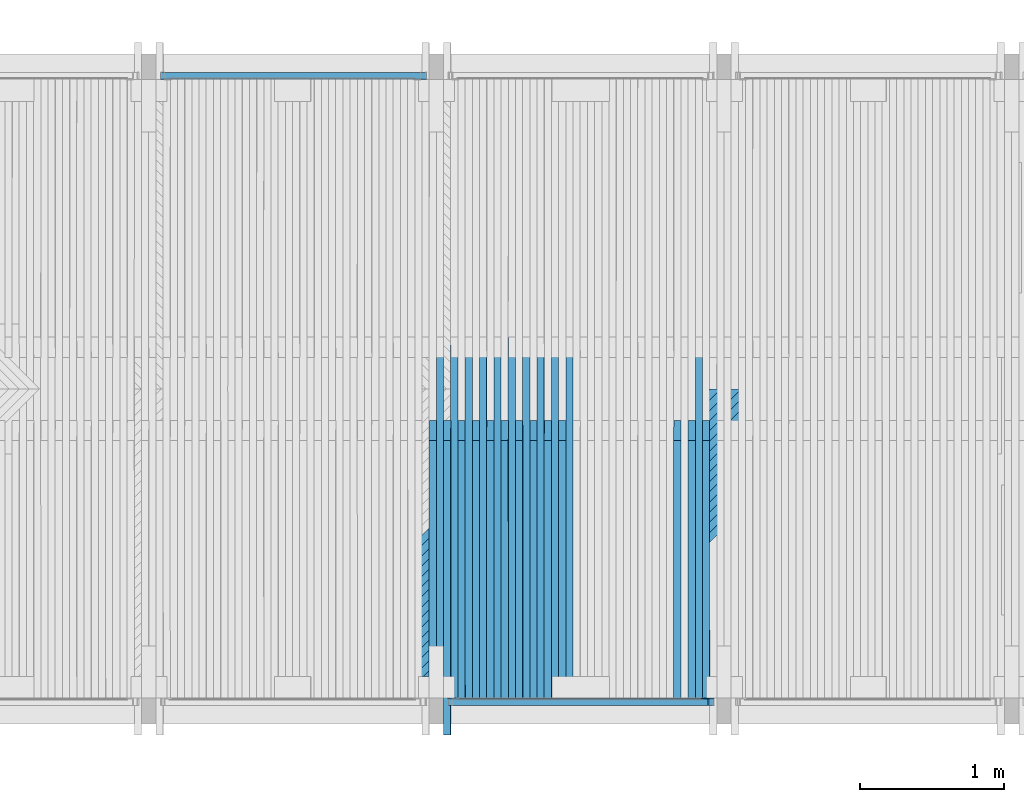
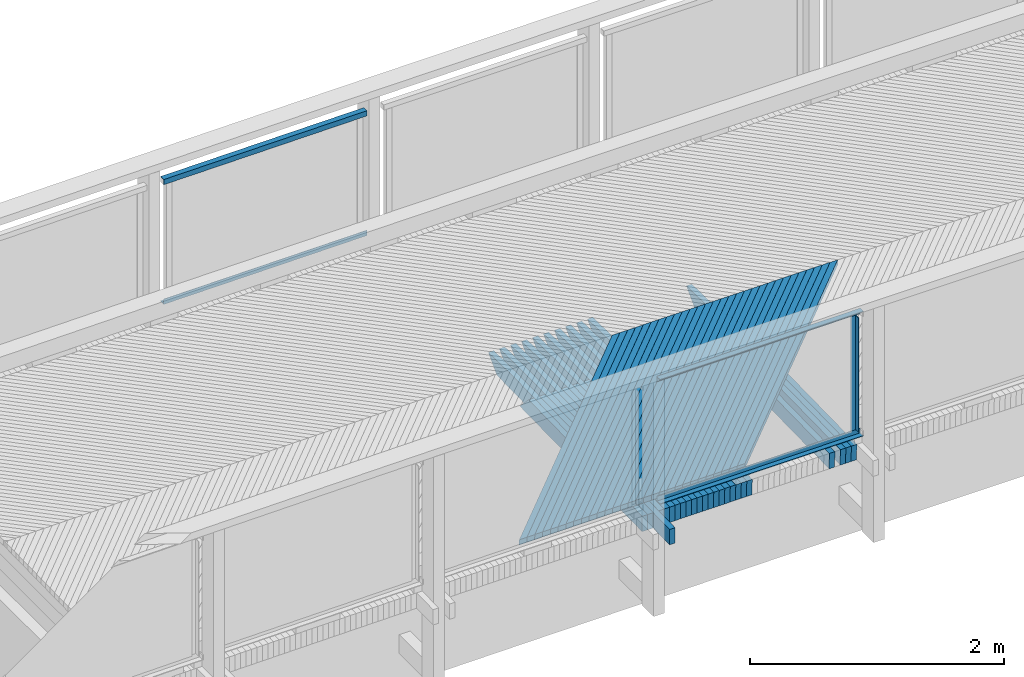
# One storey, part 22 of 65: 58 beams.
"""IFC2X3 building model written with IfcOpenShell, lengths in millimetres."""

from ifc_helpers import new_model, si_unit, frame, origin_with_axes, place, context, subcontext, project, spatial, faceted_brep, material, type_object, element, save


model = new_model("IFC2X3")

# Units and contexts
model_context = context("Model", 3, precision=1e-05, world=origin_with_axes())
body_context = subcontext(model_context, "Body", "Model", "MODEL_VIEW")
ifc_project = project(units=[si_unit("LENGTHUNIT", "METRE", prefix="MILLI"), si_unit("AREAUNIT", "SQUARE_METRE"), si_unit("VOLUMEUNIT", "CUBIC_METRE"), si_unit("MASSUNIT", "GRAM", prefix="KILO"), si_unit("TIMEUNIT", "SECOND"), si_unit("PLANEANGLEUNIT", "RADIAN"), si_unit("SOLIDANGLEUNIT", "STERADIAN"), si_unit("THERMODYNAMICTEMPERATUREUNIT", "DEGREE_CELSIUS"), si_unit("LUMINOUSINTENSITYUNIT", "LUMEN")], contexts=[model_context])

# Site, building, storey
site_placement = place(None, origin_with_axes())
site = spatial("IfcSite", under=ifc_project, at=site_placement, Name="Undefined", CompositionType="ELEMENT")
building_placement = place(site_placement, origin_with_axes())
building = spatial("IfcBuilding", under=site, at=building_placement, Name="Undefined", CompositionType="ELEMENT")
storey_placement = place(building_placement, origin_with_axes())
storey = spatial("IfcBuildingStorey", under=building, at=storey_placement, Name="Undefined", CompositionType="ELEMENT", Elevation=0.0)

# Beams
ifc_material_1 = material(Name="STEEL/S235JR")
beam_type_1 = type_object("IfcBeamType", Name="L50*5", PredefinedType="NOTDEFINED")
for number, where, z_axis, x_axis, name in (
    (1, (2082.78776180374, 24539.9900000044, 3262.26070203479), (0.0, 1.0, 0.0), (0.999965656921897, 0.0, 0.00828763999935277), "BEAM"),
    (2, (3932.20542123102, 24539.9900000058, 4427.58758107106), (0.0, 1.0, 0.0), (-0.999965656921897, 0.0, -0.00828763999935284), "BEAM"),
):
    element("IfcBeam", number, at=place(storey_placement, frame(where, z_axis=z_axis, x_axis=x_axis)), inside=storey, type_object=beam_type_1, material=ifc_material_1, Name=name, ObjectType="L50*5", context=body_context, shape_type="Brep", body=[
        faceted_brep([(0.0, 25.0, -25.0), (0.0, 25.0, 25.0), (1849.06678002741, 25.0, 25.0), (1849.06678002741, 25.0, -25.0), (0.0, 20.0, 25.0), (1849.06678002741, 20.0, 25.0), (0.0, 20.0, -20.0), (1849.06678002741, 20.0, -20.0), (0.0, -25.0, -20.0), (1849.06678002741, -25.0, -20.0), (0.0, -25.0, -25.0), (1849.06678002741, -25.0, -25.0)], [[[0, 1, 2, 3]], [[1, 4, 5, 2]], [[4, 6, 7, 5]], [[6, 8, 9, 7]], [[8, 10, 11, 9]], [[10, 0, 3, 11]], [[5, 7, 9, 11, 3, 2]], [[10, 8, 6, 4, 1, 0]]]),
    ])
beam_1_placement = place(storey_placement, frame((5867.50249484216, 20190.01, 4412.55853572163), z_axis=(0.0, -1.0, 0.0), x_axis=(0.0, 0.0, -1.0)))
element("IfcBeam", 3, at=beam_1_placement, inside=storey, type_object=beam_type_1, material=ifc_material_1, Name="BEAM", ObjectType="L50*5", context=body_context, shape_type="Brep", body=[
    faceted_brep([(0.0, 25.0, -25.0), (0.0, 25.0, 25.0), (1099.9997751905, 25.0, 25.0), (1099.9997751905, 25.0, -25.0), (0.0, 20.0, 25.0), (1099.9997751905, 20.0, 25.0), (0.0, 20.0, -20.0), (1099.9997751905, 20.0, -20.0), (0.0, -25.0, -20.0), (1099.9997751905, -25.0, -20.0), (0.0, -25.0, -25.0), (1099.9997751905, -25.0, -25.0)], [[[0, 1, 2, 3]], [[1, 4, 5, 2]], [[4, 6, 7, 5]], [[6, 8, 9, 7]], [[8, 10, 11, 9]], [[10, 0, 3, 11]], [[5, 7, 9, 11, 3, 2]], [[10, 8, 6, 4, 1, 0]]]),
])
for number, where, z_axis, x_axis, name in (
    (4, (5931.87355674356, 20190.0100000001, 3287.75429686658), (0.0, -1.0, 0.0), (-0.999987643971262, 0.0, -0.00497110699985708), "BEAM"),
    (5, (4083.12758547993, 20190.0100000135, 4428.56401363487), (0.0, -1.0, 0.0), (0.999987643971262, 0.0, 0.00497110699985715), "BEAM"),
):
    element("IfcBeam", number, at=place(storey_placement, frame(where, z_axis=z_axis, x_axis=x_axis)), inside=storey, type_object=beam_type_1, material=ifc_material_1, Name=name, ObjectType="L50*5", context=body_context, shape_type="Brep", body=[
        faceted_brep([(0.0, 25.0, -25.0), (0.0, 25.0, 25.0), (1849.01737315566, 25.0, 25.0), (1849.01737315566, 25.0, -25.0), (0.0, 20.0, 25.0), (1849.01737315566, 20.0, 25.0), (0.0, 20.0, -20.0), (1849.01737315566, 20.0, -20.0), (0.0, -25.0, -20.0), (1849.01737315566, -25.0, -20.0), (0.0, -25.0, -25.0), (1849.01737315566, -25.0, -25.0)], [[[0, 1, 2, 3]], [[1, 4, 5, 2]], [[4, 6, 7, 5]], [[6, 8, 9, 7]], [[8, 10, 11, 9]], [[10, 0, 3, 11]], [[5, 7, 9, 11, 3, 2]], [[10, 8, 6, 4, 1, 0]]]),
    ])
ifc_material_2 = material(Name="TIMBER/Timber_Undefined")
beam_type_2 = type_object("IfcBeamType", Name="50*50", PredefinedType="NOTDEFINED")
for number, where, z_axis, x_axis, name in (
    (6, (6933.49514567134, 22364.5001003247, 3235.17752037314), (0.707136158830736, -0.706981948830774, -0.0116179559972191), (-0.707068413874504, -0.706948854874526, -0.016660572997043), "BEAM"),
    (7, (6862.77103065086, 22364.5001003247, 3235.04809435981), (0.707137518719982, -0.706981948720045, -0.0115348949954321), (-0.707066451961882, -0.706948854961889, -0.0167436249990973), "BEAM"),
    (8, (6792.04693132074, 22364.5001003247, 3234.91036104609), (0.707138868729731, -0.706981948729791, -0.0114518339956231), (-0.707064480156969, -0.706948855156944, -0.0168266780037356), "BEAM"),
    (9, (6721.32284865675, 22364.5001003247, 3234.76432043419), (0.707140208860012, -0.706981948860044, -0.0113687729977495), (-0.707062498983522, -0.706948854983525, -0.0169097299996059), "BEAM"),
    (10, (6650.59878363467, 22364.5001003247, 3234.60997252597), (0.707141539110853, -0.706981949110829, -0.011285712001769), (-0.707060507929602, -0.706948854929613, -0.0169927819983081), "BEAM"),
    (11, (6579.8747372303, 22364.5001003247, 3234.44731732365), (0.707142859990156, -0.706981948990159, -0.0112026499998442), (-0.707058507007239, -0.706948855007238, -0.0170758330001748), "BEAM"),
    (12, (6509.1507104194, 22364.5001003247, 3234.27635482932), (0.707144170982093, -0.706981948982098, -0.0111195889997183), (-0.707056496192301, -0.706948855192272, -0.0171588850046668), "BEAM"),
    (13, (6438.42670417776, 22364.5001003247, 3234.09708504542), (0.707145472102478, -0.706981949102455, -0.0110365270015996), (-0.707054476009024, -0.706948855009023, -0.01724193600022), "BEAM"),
    (14, (6367.70271948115, 22364.5001003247, 3233.9095079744), (0.707146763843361, -0.706981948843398, -0.0109534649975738), (-0.707052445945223, -0.706948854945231, -0.0173249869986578), "BEAM"),
    (15, (6296.97875730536, 22364.5001003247, 3233.71362361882), (0.707148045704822, -0.706981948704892, -0.0108704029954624), (-0.707050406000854, -0.706948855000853, -0.0174080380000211), "BEAM"),
    (16, (6226.25481862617, 22364.5001003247, 3233.5094319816), (0.70714931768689, -0.706981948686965, -0.0107873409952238), (-0.707048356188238, -0.706948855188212, -0.0174910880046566), "BEAM"),
    (17, (6155.53090441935, 22364.5001003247, 3233.29693306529), (0.707150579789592, -0.706981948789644, -0.0107042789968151), (-0.707046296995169, -0.706948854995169, -0.01757413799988), "BEAM"),
    (18, (6084.80701566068, 22364.5001003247, 3233.07612687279), (0.707151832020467, -0.706981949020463, -0.0106212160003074), (-0.70704422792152, -0.706948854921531, -0.01765718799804), "BEAM"),
    (19, (6014.08315332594, 22364.5001003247, 3232.84701340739), (0.707153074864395, -0.706981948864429, -0.010538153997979), (-0.707042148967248, -0.706948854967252, -0.0177402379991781), "BEAM"),
    (20, (5943.35931839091, 22364.5001003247, 3232.6095926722), (0.707154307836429, -0.70698194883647, -0.0104550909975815), (-0.707040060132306, -0.706948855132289, -0.0178232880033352), "BEAM"),
    (21, (5872.63551183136, 22364.5001003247, 3232.36386467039), (0.707155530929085, -0.706981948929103, -0.0103720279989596), (-0.707037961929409, -0.706948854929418, -0.0179063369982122), "BEAM"),
    (22, (5801.91173462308, 22364.5001003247, 3232.10982940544), (0.707156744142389, -0.706981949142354, -0.0102889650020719), (-0.707035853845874, -0.706948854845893, -0.0179893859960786), "BEAM"),
    (23, (5731.18798774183, 22364.5001003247, 3231.84748688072), (0.707157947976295, -0.706981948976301, -0.010205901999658), (-0.707033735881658, -0.706948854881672, -0.0180724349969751), "BEAM"),
    (24, (5660.46427216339, 22364.5001003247, 3231.57683709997), (0.707159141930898, -0.706981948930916, -0.0101228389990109), (-0.707031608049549, -0.706948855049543, -0.0181554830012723), "BEAM"),
    (25, (5589.74058886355, 22364.5001003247, 3231.29788006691), (0.707160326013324, -0.706981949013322, -0.0100397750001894), (-0.707029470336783, -0.706948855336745, -0.0182385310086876), "BEAM"),
    (26, (5519.01693881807, 22364.5001003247, 3231.01061578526), (0.707161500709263, -0.706981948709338, -0.00995671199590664), (-0.707027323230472, -0.706948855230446, -0.0183215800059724), "BEAM"),
    (27, (5448.29332300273, 22364.5001003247, 3230.71504425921), (0.707162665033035, -0.706981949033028, -0.00987364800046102), (-0.707025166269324, -0.706948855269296, -0.0184046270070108), "BEAM"),
    (28, (5377.5697423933, 22364.5001003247, 3230.41116549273), (0.707163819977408, -0.706981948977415, -0.00979058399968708), (-0.70702299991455, -0.706948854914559, -0.0184876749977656), "BEAM"),
    (29, (5306.84619796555, 22364.5001003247, 3230.09897948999), (0.707164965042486, -0.706981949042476, -0.00970752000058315), (-0.707020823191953, -0.706948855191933, -0.0185707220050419), "BEAM"),
    (30, (5236.12269069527, 22364.5001003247, 3229.77848625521), (0.707166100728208, -0.70698194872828, -0.00962445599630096), (-0.707018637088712, -0.706948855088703, -0.0186537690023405), "BEAM"),
    (31, (5165.39922155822, 22364.5001003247, 3229.44968579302), (0.707167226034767, -0.706981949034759, -0.00954139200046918), (-0.707016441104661, -0.706948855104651, -0.0187368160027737), "BEAM"),
    (32, (5094.67579153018, 22364.5001003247, 3229.11257810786), (0.707168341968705, -0.706981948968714, -0.00945832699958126), (-0.70701423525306, -0.706948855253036, -0.0188198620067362), "BEAM"),
    (33, (5023.95240158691, 22364.5001003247, 3228.76716320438), (0.707169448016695, -0.706981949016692, -0.00937526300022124), (-0.70701202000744, -0.706948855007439, -0.0189029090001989), "BEAM"),
    (34, (4953.22905270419, 22364.5001003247, 3228.41344108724), (0.707170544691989, -0.706981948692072, -0.00929219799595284), (-0.70700979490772, -0.706948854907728, -0.018985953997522), "BEAM"),
):
    element("IfcBeam", number, at=place(storey_placement, frame(where, z_axis=z_axis, x_axis=x_axis)), inside=storey, type_object=beam_type_2, material=ifc_material_2, Name=name, ObjectType="50*50", context=body_context, shape_type="Brep", body=[
        faceted_brep([(24.8942457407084, 25.0000000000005, -25.0000000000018), (-25.0086637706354, 24.9999999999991, 25.0), (2804.3406783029, 25.0, 25.0000000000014), (2854.34301907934, 24.9999999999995, -25.0), (-26.4222658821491, -25.0000000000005, 25.0), (2802.92643296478, -25.0, 25.0000000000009), (23.4806436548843, -24.9999999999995, -25.0000000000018), (2852.92877373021, -25.0000000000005, -24.9999999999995)], [[[0, 1, 2, 3]], [[1, 4, 5, 2]], [[4, 6, 7, 5]], [[6, 0, 3, 7]], [[5, 7, 3, 2]], [[6, 4, 1, 0]]]),
    ])
beam_type_3 = type_object("IfcBeamType", Name="150*50", PredefinedType="NOTDEFINED")
for number, where, z_axis, x_axis, name in (
    (35, (5875.95475998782, 20216.5046076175, 3089.40059139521), (-0.00361017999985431, -0.0199960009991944, 0.999793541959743), (-7.22040000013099e-05, 0.999800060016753, 0.019995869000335), "BEAM"),
    (36, (5775.93537890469, 20216.5046076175, 3089.0393605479), (-0.00377630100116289, -0.0199960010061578, 0.999792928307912), (-7.55270000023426e-05, 0.999800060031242, 0.0199958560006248), "BEAM"),
):
    element("IfcBeam", number, at=place(storey_placement, frame(where, z_axis=z_axis, x_axis=x_axis)), inside=storey, type_object=beam_type_3, material=ifc_material_2, Name=name, ObjectType="150*50", context=body_context, shape_type="Brep", body=[
        faceted_brep([(-1.6778358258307e-07, -24.9999999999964, -74.9999999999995), (1.67790858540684e-07, -24.9999999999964, 75.0000000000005), (1.67790858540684e-07, 25.0000000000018, 74.9999999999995), (-1.6778358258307e-07, 25.0000000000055, -75.0), (1928.42646353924, -25.0, -75.0000000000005), (1789.96936433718, -25.0000000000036, 74.9999999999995), (1789.96936408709, 24.9999999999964, 75.0), (1928.42646328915, 24.9999999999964, -75.0)], [[[0, 1, 2, 3]], [[1, 0, 4, 5]], [[2, 1, 5, 6]], [[3, 2, 6, 7]], [[0, 3, 7, 4]], [[7, 6, 5, 4]]]),
    ])
beam_2_placement = place(storey_placement, frame((5825.95508575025, 20216.5046076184, 3089.21997974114), z_axis=(-0.00361017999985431, -0.0199960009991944, 0.999793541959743), x_axis=(-7.22040000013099e-05, 0.999800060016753, 0.019995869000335)))
element("IfcBeam", 37, at=beam_2_placement, inside=storey, type_object=beam_type_3, material=ifc_material_2, Name="BEAM", ObjectType="150*50", context=body_context, shape_type="Brep", body=[
    faceted_brep([(-1.6778358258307e-07, -24.9999999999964, -74.9999999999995), (1.67790858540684e-07, -24.9999999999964, 75.0000000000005), (1.67790858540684e-07, 25.0000000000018, 74.9999999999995), (-1.6778358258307e-07, 25.0000000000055, -75.0), (2375.00494422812, 25.0000000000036, -75.0), (2375.00494447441, -24.9999999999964, -74.9999999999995), (2510.59248714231, -24.9999999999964, 60.5875430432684), (2150.42514405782, -24.9999999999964, 75.0000000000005), (2150.42515052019, 25.0000000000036, 74.9999999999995), (2510.59248715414, 25.0000000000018, 60.5875433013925)], [[[0, 1, 2, 3]], [[0, 3, 4, 5]], [[1, 0, 5, 6, 7]], [[2, 1, 7, 8]], [[4, 3, 2, 8, 9]], [[5, 4, 9, 6]], [[6, 9, 8, 7]]]),
])
for number, where, z_axis, x_axis, name in (
    (38, (5675.91605922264, 20216.5046076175, 3088.66151095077), (-0.00394242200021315, -0.0199960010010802, 0.999792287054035), (-7.88490000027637e-05, 0.999800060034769, 0.0199958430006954), "BEAM"),
    (39, (4875.76404356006, 20216.5046076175, 3085.04044053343), (-0.00527138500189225, -0.0199960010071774, 0.999786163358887), (-0.000105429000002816, 0.999800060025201, 0.019995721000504), "BEAM"),
):
    element("IfcBeam", number, at=place(storey_placement, frame(where, z_axis=z_axis, x_axis=x_axis)), inside=storey, type_object=beam_type_3, material=ifc_material_2, Name=name, ObjectType="150*50", context=body_context, shape_type="Brep", body=[
        faceted_brep([(-1.6778358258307e-07, -24.9999999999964, -74.9999999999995), (1.67790858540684e-07, -24.9999999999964, 75.0000000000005), (1.67790858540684e-07, 25.0000000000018, 74.9999999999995), (-1.6778358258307e-07, 25.0000000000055, -75.0), (1928.42646353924, -25.0, -75.0000000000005), (1789.96936433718, -25.0000000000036, 74.9999999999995), (1789.96936408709, 24.9999999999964, 75.0), (1928.42646328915, 24.9999999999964, -75.0)], [[[0, 1, 2, 3]], [[1, 0, 4, 5]], [[2, 1, 5, 6]], [[3, 2, 6, 7]], [[0, 3, 7, 4]], [[7, 6, 5, 4]]]),
    ])
beam_3_placement = place(storey_placement, frame((4925.78342438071, 20216.5046076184, 3085.29585887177), z_axis=(-0.00510526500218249, -0.0199960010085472, 0.999787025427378), x_axis=(-0.000102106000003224, 0.999800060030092, 0.0199957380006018)))
element("IfcBeam", 40, at=beam_3_placement, inside=storey, type_object=beam_type_3, material=ifc_material_2, Name="BEAM", ObjectType="150*50", context=body_context, shape_type="Brep", body=[
    faceted_brep([(-1.6778358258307e-07, -24.9999999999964, -74.9999999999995), (1.67790858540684e-07, -24.9999999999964, 75.0000000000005), (1.67790858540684e-07, 25.0000000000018, 74.9999999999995), (-1.6778358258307e-07, 25.0000000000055, -75.0), (2375.00494422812, 25.0000000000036, -75.0), (2375.00494447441, -24.9999999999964, -74.9999999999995), (2510.59248714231, -24.9999999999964, 60.5875430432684), (2150.42514405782, -24.9999999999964, 75.0000000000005), (2150.42515052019, 25.0000000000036, 74.9999999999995), (2510.59248715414, 25.0000000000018, 60.5875433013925)], [[[0, 1, 2, 3]], [[0, 3, 4, 5]], [[1, 0, 5, 6, 7]], [[2, 1, 7, 8]], [[4, 3, 2, 8, 9]], [[5, 4, 9, 6]], [[6, 9, 8, 7]]]),
])
beam_4_placement = place(storey_placement, frame((4775.74540074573, 20216.5046076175, 3084.51302271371), z_axis=(-0.00543750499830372, -0.0199960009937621, 0.999785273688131), x_axis=(-0.000108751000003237, 0.99980006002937, 0.0199957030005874)))
element("IfcBeam", 41, at=beam_4_placement, inside=storey, type_object=beam_type_3, material=ifc_material_2, Name="BEAM", ObjectType="150*50", context=body_context, shape_type="Brep", body=[
    faceted_brep([(-1.6778358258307e-07, -24.9999999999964, -74.9999999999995), (1.67790858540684e-07, -24.9999999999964, 75.0000000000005), (1.67790858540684e-07, 25.0000000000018, 74.9999999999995), (-1.6778358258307e-07, 25.0000000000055, -75.0), (1928.42646353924, -25.0, -75.0000000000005), (1789.96936433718, -25.0000000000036, 74.9999999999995), (1789.96936408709, 24.9999999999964, 75.0), (1928.42646328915, 24.9999999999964, -75.0)], [[[0, 1, 2, 3]], [[1, 0, 4, 5]], [[2, 1, 5, 6]], [[3, 2, 6, 7]], [[0, 3, 7, 4]], [[7, 6, 5, 4]]]),
])
beam_5_placement = place(storey_placement, frame((4825.7647384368, 20216.5046076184, 3084.77675203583), z_axis=(-0.00527138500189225, -0.0199960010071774, 0.999786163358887), x_axis=(-0.000105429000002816, 0.999800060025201, 0.019995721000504)))
element("IfcBeam", 42, at=beam_5_placement, inside=storey, type_object=beam_type_3, material=ifc_material_2, Name="BEAM", ObjectType="150*50", context=body_context, shape_type="Brep", body=[
    faceted_brep([(-1.6778358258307e-07, -24.9999999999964, -74.9999999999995), (1.67790858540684e-07, -24.9999999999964, 75.0000000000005), (1.67790858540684e-07, 25.0000000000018, 74.9999999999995), (-1.6778358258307e-07, 25.0000000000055, -75.0), (2375.00494422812, 25.0000000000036, -75.0), (2375.00494447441, -24.9999999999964, -74.9999999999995), (2510.59248714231, -24.9999999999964, 60.5875430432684), (2150.42514405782, -24.9999999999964, 75.0000000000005), (2150.42515052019, 25.0000000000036, 74.9999999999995), (2510.59248715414, 25.0000000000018, 60.5875433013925)], [[[0, 1, 2, 3]], [[0, 3, 4, 5]], [[1, 0, 5, 6, 7]], [[2, 1, 7, 8]], [[4, 3, 2, 8, 9]], [[5, 4, 9, 6]], [[6, 9, 8, 7]]]),
])
beam_6_placement = place(storey_placement, frame((4675.72684694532, 20216.5046076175, 3083.96898626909), z_axis=(-0.0056036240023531, -0.0199960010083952, 0.999784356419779), x_axis=(-0.000112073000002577, 0.999800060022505, 0.0199956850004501)))
element("IfcBeam", 43, at=beam_6_placement, inside=storey, type_object=beam_type_3, material=ifc_material_2, Name="BEAM", ObjectType="150*50", context=body_context, shape_type="Brep", body=[
    faceted_brep([(-1.6778358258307e-07, -24.9999999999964, -74.9999999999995), (1.67790858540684e-07, -24.9999999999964, 75.0000000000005), (1.67790858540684e-07, 25.0000000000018, 74.9999999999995), (-1.6778358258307e-07, 25.0000000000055, -75.0), (1928.42646353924, -25.0, -75.0000000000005), (1789.96936433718, -25.0000000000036, 74.9999999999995), (1789.96936408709, 24.9999999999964, 75.0), (1928.42646328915, 24.9999999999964, -75.0)], [[[0, 1, 2, 3]], [[1, 0, 4, 5]], [[2, 1, 5, 6]], [[3, 2, 6, 7]], [[0, 3, 7, 4]], [[7, 6, 5, 4]]]),
])
beam_7_placement = place(storey_placement, frame((4725.7461401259, 20216.5046076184, 3084.24102656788), z_axis=(-0.00543750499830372, -0.0199960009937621, 0.999785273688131), x_axis=(-0.000108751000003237, 0.99980006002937, 0.0199957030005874)))
element("IfcBeam", 44, at=beam_7_placement, inside=storey, type_object=beam_type_3, material=ifc_material_2, Name="BEAM", ObjectType="150*50", context=body_context, shape_type="Brep", body=[
    faceted_brep([(-1.6778358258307e-07, -24.9999999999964, -74.9999999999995), (1.67790858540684e-07, -24.9999999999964, 75.0000000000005), (1.67790858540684e-07, 25.0000000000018, 74.9999999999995), (-1.6778358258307e-07, 25.0000000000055, -75.0), (2375.00494422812, 25.0000000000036, -75.0), (2375.00494447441, -24.9999999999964, -74.9999999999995), (2510.59248714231, -24.9999999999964, 60.5875430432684), (2150.42514405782, -24.9999999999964, 75.0000000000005), (2150.42515052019, 25.0000000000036, 74.9999999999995), (2510.59248715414, 25.0000000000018, 60.5875433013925)], [[[0, 1, 2, 3]], [[0, 3, 4, 5]], [[1, 0, 5, 6, 7]], [[2, 1, 7, 8]], [[4, 3, 2, 8, 9]], [[5, 4, 9, 6]], [[6, 9, 8, 7]]]),
])
beam_8_placement = place(storey_placement, frame((4575.70838492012, 20216.5046076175, 3083.40833121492), z_axis=(-0.00576974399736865, -0.0199960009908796, 0.999783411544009), x_axis=(-0.00011539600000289, 0.999800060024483, 0.0199956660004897)))
element("IfcBeam", 45, at=beam_8_placement, inside=storey, type_object=beam_type_3, material=ifc_material_2, Name="BEAM", ObjectType="150*50", context=body_context, shape_type="Brep", body=[
    faceted_brep([(-1.6778358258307e-07, -24.9999999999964, -74.9999999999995), (1.67790858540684e-07, -24.9999999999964, 75.0000000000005), (1.67790858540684e-07, 25.0000000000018, 74.9999999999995), (-1.6778358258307e-07, 25.0000000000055, -75.0), (1928.42646353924, -25.0, -75.0000000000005), (1789.96936433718, -25.0000000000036, 74.9999999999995), (1789.96936408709, 24.9999999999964, 75.0), (1928.42646328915, 24.9999999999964, -75.0)], [[[0, 1, 2, 3]], [[1, 0, 4, 5]], [[2, 1, 5, 6]], [[3, 2, 6, 7]], [[0, 3, 7, 4]], [[7, 6, 5, 4]]]),
])
beam_9_placement = place(storey_placement, frame((4625.72763220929, 20216.5046076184, 3083.68868248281), z_axis=(-0.0056036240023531, -0.0199960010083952, 0.999784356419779), x_axis=(-0.000112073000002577, 0.999800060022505, 0.0199956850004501)))
element("IfcBeam", 46, at=beam_9_placement, inside=storey, type_object=beam_type_3, material=ifc_material_2, Name="BEAM", ObjectType="150*50", context=body_context, shape_type="Brep", body=[
    faceted_brep([(-1.6778358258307e-07, -24.9999999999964, -74.9999999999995), (1.67790858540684e-07, -24.9999999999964, 75.0000000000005), (1.67790858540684e-07, 25.0000000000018, 74.9999999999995), (-1.6778358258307e-07, 25.0000000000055, -75.0), (2375.00494422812, 25.0000000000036, -75.0), (2375.00494447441, -24.9999999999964, -74.9999999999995), (2510.59248714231, -24.9999999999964, 60.5875430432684), (2150.42514405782, -24.9999999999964, 75.0000000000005), (2150.42515052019, 25.0000000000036, 74.9999999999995), (2510.59248715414, 25.0000000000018, 60.5875433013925)], [[[0, 1, 2, 3]], [[0, 3, 4, 5]], [[1, 0, 5, 6, 7]], [[2, 1, 7, 8]], [[4, 3, 2, 8, 9]], [[5, 4, 9, 6]], [[6, 9, 8, 7]]]),
])
beam_10_placement = place(storey_placement, frame((4475.69001743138, 20216.5046076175, 3082.83105756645), z_axis=(-0.00593586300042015, -0.0199960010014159, 0.999782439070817), x_axis=(-0.00011871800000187, 0.999800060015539, 0.0199956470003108)))
element("IfcBeam", 47, at=beam_10_placement, inside=storey, type_object=beam_type_3, material=ifc_material_2, Name="BEAM", ObjectType="150*50", context=body_context, shape_type="Brep", body=[
    faceted_brep([(-1.6778358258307e-07, -24.9999999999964, -74.9999999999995), (1.67790858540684e-07, -24.9999999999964, 75.0000000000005), (1.67790858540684e-07, 25.0000000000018, 74.9999999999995), (-1.6778358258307e-07, 25.0000000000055, -75.0), (1928.42646353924, -25.0, -75.0000000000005), (1789.96936433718, -25.0000000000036, 74.9999999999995), (1789.96936408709, 24.9999999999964, 75.0), (1928.42646328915, 24.9999999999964, -75.0)], [[[0, 1, 2, 3]], [[1, 0, 4, 5]], [[2, 1, 5, 6]], [[3, 2, 6, 7]], [[0, 3, 7, 4]], [[7, 6, 5, 4]]]),
])
beam_11_placement = place(storey_placement, frame((4525.70921744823, 20216.5046076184, 3083.11971979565), z_axis=(-0.00576974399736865, -0.0199960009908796, 0.999783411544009), x_axis=(-0.00011539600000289, 0.999800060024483, 0.0199956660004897)))
element("IfcBeam", 48, at=beam_11_placement, inside=storey, type_object=beam_type_3, material=ifc_material_2, Name="BEAM", ObjectType="150*50", context=body_context, shape_type="Brep", body=[
    faceted_brep([(-1.6778358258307e-07, -24.9999999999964, -74.9999999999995), (1.67790858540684e-07, -24.9999999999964, 75.0000000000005), (1.67790858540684e-07, 25.0000000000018, 74.9999999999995), (-1.6778358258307e-07, 25.0000000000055, -75.0), (2375.00494422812, 25.0000000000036, -75.0), (2375.00494447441, -24.9999999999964, -74.9999999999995), (2510.59248714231, -24.9999999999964, 60.5875430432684), (2150.42514405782, -24.9999999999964, 75.0000000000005), (2150.42515052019, 25.0000000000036, 74.9999999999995), (2510.59248715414, 25.0000000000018, 60.5875433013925)], [[[0, 1, 2, 3]], [[0, 3, 4, 5]], [[1, 0, 5, 6, 7]], [[2, 1, 7, 8]], [[4, 3, 2, 8, 9]], [[5, 4, 9, 6]], [[6, 9, 8, 7]]]),
])
beam_12_placement = place(storey_placement, frame((4375.67174724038, 20216.5046076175, 3082.23716533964), z_axis=(-0.00610198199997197, -0.0199960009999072, 0.999781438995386), x_axis=(-0.000122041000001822, 0.999800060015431, 0.0199956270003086)))
element("IfcBeam", 49, at=beam_12_placement, inside=storey, type_object=beam_type_3, material=ifc_material_2, Name="BEAM", ObjectType="150*50", context=body_context, shape_type="Brep", body=[
    faceted_brep([(-1.6778358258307e-07, -24.9999999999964, -74.9999999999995), (1.67790858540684e-07, -24.9999999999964, 75.0000000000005), (1.67790858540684e-07, 25.0000000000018, 74.9999999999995), (-1.6778358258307e-07, 25.0000000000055, -75.0), (1928.42646353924, -25.0, -75.0000000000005), (1789.96936433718, -25.0000000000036, 74.9999999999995), (1789.96936408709, 24.9999999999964, 75.0), (1928.42646328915, 24.9999999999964, -75.0)], [[[0, 1, 2, 3]], [[1, 0, 4, 5]], [[2, 1, 5, 6]], [[3, 2, 6, 7]], [[0, 3, 7, 4]], [[7, 6, 5, 4]]]),
])
beam_13_placement = place(storey_placement, frame((4425.690898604, 20216.5046076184, 3082.53413852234), z_axis=(-0.00593586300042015, -0.0199960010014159, 0.999782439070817), x_axis=(-0.00011871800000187, 0.999800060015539, 0.0199956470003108)))
element("IfcBeam", 50, at=beam_13_placement, inside=storey, type_object=beam_type_3, material=ifc_material_2, Name="BEAM", ObjectType="150*50", context=body_context, shape_type="Brep", body=[
    faceted_brep([(-1.6778358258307e-07, -24.9999999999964, -74.9999999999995), (1.67790858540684e-07, -24.9999999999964, 75.0000000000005), (1.67790858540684e-07, 25.0000000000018, 74.9999999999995), (-1.6778358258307e-07, 25.0000000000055, -75.0), (2375.00494422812, 25.0000000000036, -75.0), (2375.00494447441, -24.9999999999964, -74.9999999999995), (2510.59248714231, -24.9999999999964, 60.5875430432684), (2150.42514405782, -24.9999999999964, 75.0000000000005), (2150.42515052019, 25.0000000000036, 74.9999999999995), (2510.59248715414, 25.0000000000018, 60.5875433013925)], [[[0, 1, 2, 3]], [[0, 3, 4, 5]], [[1, 0, 5, 6, 7]], [[2, 1, 7, 8]], [[4, 3, 2, 8, 9]], [[5, 4, 9, 6]], [[6, 9, 8, 7]]]),
])
beam_14_placement = place(storey_placement, frame((4275.65357710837, 20216.5046076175, 3081.62665455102), z_axis=(-0.00626810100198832, -0.0199960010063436, 0.999780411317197), x_axis=(-0.000125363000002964, 0.999800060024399, 0.0199956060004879)))
element("IfcBeam", 51, at=beam_14_placement, inside=storey, type_object=beam_type_3, material=ifc_material_2, Name="BEAM", ObjectType="150*50", context=body_context, shape_type="Brep", body=[
    faceted_brep([(-1.6778358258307e-07, -24.9999999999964, -74.9999999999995), (1.67790858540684e-07, -24.9999999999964, 75.0000000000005), (1.67790858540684e-07, 25.0000000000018, 74.9999999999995), (-1.6778358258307e-07, 25.0000000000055, -75.0), (1928.42646353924, -25.0, -75.0000000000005), (1789.96936433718, -25.0000000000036, 74.9999999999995), (1789.96936408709, 24.9999999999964, 75.0), (1928.42646328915, 24.9999999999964, -75.0)], [[[0, 1, 2, 3]], [[1, 0, 4, 5]], [[2, 1, 5, 6]], [[3, 2, 6, 7]], [[0, 3, 7, 4]], [[7, 6, 5, 4]]]),
])
beam_15_placement = place(storey_placement, frame((4325.67267843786, 20216.5046076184, 3081.93193867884), z_axis=(-0.00610198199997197, -0.0199960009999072, 0.999781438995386), x_axis=(-0.000122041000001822, 0.999800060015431, 0.0199956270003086)))
element("IfcBeam", 52, at=beam_15_placement, inside=storey, type_object=beam_type_3, material=ifc_material_2, Name="BEAM", ObjectType="150*50", context=body_context, shape_type="Brep", body=[
    faceted_brep([(-1.6778358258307e-07, -24.9999999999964, -74.9999999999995), (1.67790858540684e-07, -24.9999999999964, 75.0000000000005), (1.67790858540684e-07, 25.0000000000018, 74.9999999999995), (-1.6778358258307e-07, 25.0000000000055, -75.0), (2375.00494422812, 25.0000000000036, -75.0), (2375.00494447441, -24.9999999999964, -74.9999999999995), (2510.59248714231, -24.9999999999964, 60.5875430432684), (2150.42514405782, -24.9999999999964, 75.0000000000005), (2150.42515052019, 25.0000000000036, 74.9999999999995), (2510.59248715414, 25.0000000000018, 60.5875433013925)], [[[0, 1, 2, 3]], [[0, 3, 4, 5]], [[1, 0, 5, 6, 7]], [[2, 1, 7, 8]], [[4, 3, 2, 8, 9]], [[5, 4, 9, 6]], [[6, 9, 8, 7]]]),
])
beam_16_placement = place(storey_placement, frame((4175.63550979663, 20216.5046076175, 3080.99952521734), z_axis=(-0.00643422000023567, -0.0199960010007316, 0.999779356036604), x_axis=(-0.000128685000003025, 0.999800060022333, 0.0199955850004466)))
element("IfcBeam", 53, at=beam_16_placement, inside=storey, type_object=beam_type_3, material=ifc_material_2, Name="BEAM", ObjectType="150*50", context=body_context, shape_type="Brep", body=[
    faceted_brep([(-1.6778358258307e-07, -24.9999999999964, -74.9999999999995), (1.67790858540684e-07, -24.9999999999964, 75.0000000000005), (1.67790858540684e-07, 25.0000000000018, 74.9999999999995), (-1.6778358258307e-07, 25.0000000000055, -75.0), (1928.42646353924, -25.0, -75.0000000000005), (1789.96936433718, -25.0000000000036, 74.9999999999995), (1789.96936408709, 24.9999999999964, 75.0), (1928.42646328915, 24.9999999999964, -75.0)], [[[0, 1, 2, 3]], [[1, 0, 4, 5]], [[2, 1, 5, 6]], [[3, 2, 6, 7]], [[0, 3, 7, 4]], [[7, 6, 5, 4]]]),
])
for number, where, z_axis, x_axis, name in (
    (54, (4225.65455971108, 20216.5046076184, 3081.31312028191), (-0.00626810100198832, -0.0199960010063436, 0.999780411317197), (-0.000125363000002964, 0.999800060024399, 0.0199956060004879), "BEAM"),
    (55, (4125.63654518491, 20216.5046076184, 3080.67768334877), (-0.00643422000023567, -0.0199960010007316, 0.999779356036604), (-0.000128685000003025, 0.999800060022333, 0.0199955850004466), "BEAM"),
):
    element("IfcBeam", number, at=place(storey_placement, frame(where, z_axis=z_axis, x_axis=x_axis)), inside=storey, type_object=beam_type_3, material=ifc_material_2, Name=name, ObjectType="150*50", context=body_context, shape_type="Brep", body=[
        faceted_brep([(-1.6778358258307e-07, -24.9999999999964, -74.9999999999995), (1.67790858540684e-07, -24.9999999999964, 75.0000000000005), (1.67790858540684e-07, 25.0000000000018, 74.9999999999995), (-1.6778358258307e-07, 25.0000000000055, -75.0), (2375.00494422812, 25.0000000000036, -75.0), (2375.00494447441, -24.9999999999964, -74.9999999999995), (2510.59248714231, -24.9999999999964, 60.5875430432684), (2150.42514405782, -24.9999999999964, 75.0000000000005), (2150.42515052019, 25.0000000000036, 74.9999999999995), (2510.59248715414, 25.0000000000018, 60.5875433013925)], [[[0, 1, 2, 3]], [[0, 3, 4, 5]], [[1, 0, 5, 6, 7]], [[2, 1, 7, 8]], [[4, 3, 2, 8, 9]], [[5, 4, 9, 6]], [[6, 9, 8, 7]]]),
    ])
beam_17_placement = place(storey_placement, frame((3975.59969467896, 20216.5046076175, 3079.69541098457), z_axis=(-0.0067664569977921, -0.0199960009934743, 0.999777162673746), x_axis=(-0.000135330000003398, 0.999800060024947, 0.019995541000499)))
element("IfcBeam", 56, at=beam_17_placement, inside=storey, type_object=beam_type_3, material=ifc_material_2, Name="BEAM", ObjectType="150*50", context=body_context, shape_type="Brep", body=[
    faceted_brep([(-1.6778358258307e-07, -24.9999999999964, -74.9999999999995), (1.67790858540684e-07, -24.9999999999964, 75.0000000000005), (1.67790858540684e-07, 25.0000000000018, 74.9999999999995), (-1.6778358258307e-07, 25.0000000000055, -75.0), (1928.42646353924, -25.0, -75.0000000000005), (1789.96936433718, -25.0000000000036, 74.9999999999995), (1789.96936408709, 24.9999999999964, 75.0), (1928.42646328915, 24.9999999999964, -75.0)], [[[0, 1, 2, 3]], [[1, 0, 4, 5]], [[2, 1, 5, 6]], [[3, 2, 6, 7]], [[0, 3, 7, 4]], [[7, 6, 5, 4]]]),
])
beam_18_placement = place(storey_placement, frame((4025.61863762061, 20216.5046076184, 3080.02562789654), z_axis=(-0.00660033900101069, -0.0199960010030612, 0.999778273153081), x_axis=(-0.000132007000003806, 0.999800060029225, 0.0199955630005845)))
element("IfcBeam", 57, at=beam_18_placement, inside=storey, type_object=beam_type_3, material=ifc_material_2, Name="BEAM", ObjectType="150*50", context=body_context, shape_type="Brep", body=[
    faceted_brep([(-1.6778358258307e-07, -24.9999999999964, -74.9999999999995), (1.67790858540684e-07, -24.9999999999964, 75.0000000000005), (1.67790858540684e-07, 25.0000000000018, 74.9999999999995), (-1.6778358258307e-07, 25.0000000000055, -75.0), (2375.00494422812, 25.0000000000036, -75.0), (2375.00494447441, -24.9999999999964, -74.9999999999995), (2510.59248714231, -24.9999999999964, 60.5875430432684), (2150.42514405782, -24.9999999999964, 75.0000000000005), (2150.42515052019, 25.0000000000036, 74.9999999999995), (2510.59248715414, 25.0000000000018, 60.5875433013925)], [[[0, 1, 2, 3]], [[0, 3, 4, 5]], [[1, 0, 5, 6, 7]], [[2, 1, 7, 8]], [[4, 3, 2, 8, 9]], [[5, 4, 9, 6]], [[6, 9, 8, 7]]]),
])
beam_19_placement = place(storey_placement, frame((4075.4423432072, 19958.5561921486, 3075.19549155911), z_axis=(-0.00660033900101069, -0.0199960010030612, 0.999778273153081), x_axis=(-0.000132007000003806, 0.999800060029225, 0.0199955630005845)))
element("IfcBeam", 58, at=beam_19_placement, inside=storey, type_object=beam_type_3, material=ifc_material_2, Name="BEAM", ObjectType="150*50", context=body_context, shape_type="Brep", body=[
    faceted_brep([(-1.6778358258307e-07, -24.9999999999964, -74.9999999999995), (1.67790858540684e-07, -24.9999999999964, 75.0000000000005), (1.67790858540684e-07, 25.0000000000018, 74.9999999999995), (-1.6778358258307e-07, 25.0000000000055, -75.0), (2186.42645144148, -25.0000000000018, -75.0), (2047.96935255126, -25.0000000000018, 75.0000000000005), (2047.9693678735, 24.9999999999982, 75.0), (2186.42646676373, 24.9999999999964, -74.9999999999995)], [[[0, 1, 2, 3]], [[1, 0, 4, 5]], [[2, 1, 5, 6]], [[3, 2, 6, 7]], [[0, 3, 7, 4]], [[7, 6, 5, 4]]]),
])

save(model, "model.ifc")
